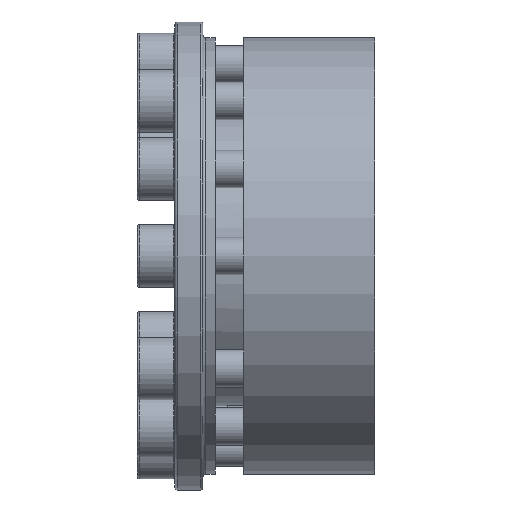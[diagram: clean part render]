
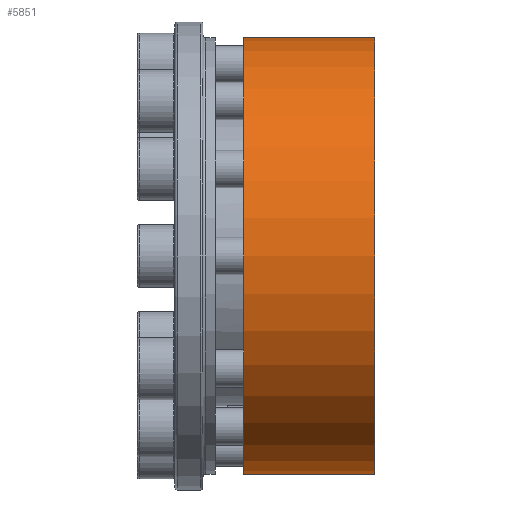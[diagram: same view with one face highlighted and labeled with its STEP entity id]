
A CAD part, front view. The second image highlights one B-rep face of the part: STEP entity #5851.
In plain terms, the highlighted cylindrical face has radius 35 mm (diameter 70 mm), a partial arc.
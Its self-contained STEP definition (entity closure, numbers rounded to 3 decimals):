
#368 = CIRCLE ( 'NONE', #8040, 35. ) ;
#664 = VERTEX_POINT ( 'NONE', #10115 ) ;
#923 = ORIENTED_EDGE ( 'NONE', *, *, #4499, .F. ) ;
#1231 = ORIENTED_EDGE ( 'NONE', *, *, #8107, .T. ) ;
#1252 = VECTOR ( 'NONE', #9679, 1000. ) ;
#2112 = EDGE_CURVE ( 'NONE', #664, #2436, #2848, .T. ) ;
#2436 = VERTEX_POINT ( 'NONE', #8035 ) ;
#2673 = FACE_OUTER_BOUND ( 'NONE', #7753, .T. ) ;
#2848 = LINE ( 'NONE', #8501, #9669 ) ;
#2869 = CARTESIAN_POINT ( 'NONE',  ( 16., 0., 35. ) ) ;
#3231 = CIRCLE ( 'NONE', #8504, 35. ) ;
#3503 = DIRECTION ( 'NONE',  ( -1., 0., 0. ) ) ;
#3869 = EDGE_CURVE ( 'NONE', #8557, #10647, #10610, .T. ) ;
#4397 = DIRECTION ( 'NONE',  ( -1., 0., 0. ) ) ;
#4464 = CARTESIAN_POINT ( 'NONE',  ( -16., 0., 0. ) ) ;
#4499 = EDGE_CURVE ( 'NONE', #2436, #10647, #3231, .T. ) ;
#4565 = CARTESIAN_POINT ( 'NONE',  ( -5., 0., 35. ) ) ;
#4660 = CARTESIAN_POINT ( 'NONE',  ( -5., 0., 0. ) ) ;
#5715 = DIRECTION ( 'NONE',  ( 0., 0., 1. ) ) ;
#5744 = AXIS2_PLACEMENT_3D ( 'NONE', #4464, #4397, #8583 ) ;
#5851 = ADVANCED_FACE ( 'NONE', ( #2673 ), #8317, .T. ) ;
#7177 = DIRECTION ( 'NONE',  ( 0., 0., 1. ) ) ;
#7225 = CARTESIAN_POINT ( 'NONE',  ( -16., 0., 35. ) ) ;
#7290 = DIRECTION ( 'NONE',  ( -1., 0., 0. ) ) ;
#7753 = EDGE_LOOP ( 'NONE', ( #10776, #1231, #9693, #923 ) ) ;
#8035 = CARTESIAN_POINT ( 'NONE',  ( -5., 0., -35. ) ) ;
#8040 = AXIS2_PLACEMENT_3D ( 'NONE', #10632, #8967, #5715 ) ;
#8107 = EDGE_CURVE ( 'NONE', #664, #8557, #368, .T. ) ;
#8317 = CYLINDRICAL_SURFACE ( 'NONE', #5744, 35. ) ;
#8501 = CARTESIAN_POINT ( 'NONE',  ( -16., 0., -35. ) ) ;
#8504 = AXIS2_PLACEMENT_3D ( 'NONE', #4660, #7290, #7177 ) ;
#8557 = VERTEX_POINT ( 'NONE', #2869 ) ;
#8583 = DIRECTION ( 'NONE',  ( 0., 0., 1. ) ) ;
#8967 = DIRECTION ( 'NONE',  ( -1., 0., 0. ) ) ;
#9669 = VECTOR ( 'NONE', #3503, 1000. ) ;
#9679 = DIRECTION ( 'NONE',  ( -1., 0., 0. ) ) ;
#9693 = ORIENTED_EDGE ( 'NONE', *, *, #3869, .T. ) ;
#10115 = CARTESIAN_POINT ( 'NONE',  ( 16., 0., -35. ) ) ;
#10610 = LINE ( 'NONE', #7225, #1252 ) ;
#10632 = CARTESIAN_POINT ( 'NONE',  ( 16., 0., 0. ) ) ;
#10647 = VERTEX_POINT ( 'NONE', #4565 ) ;
#10776 = ORIENTED_EDGE ( 'NONE', *, *, #2112, .F. ) ;
